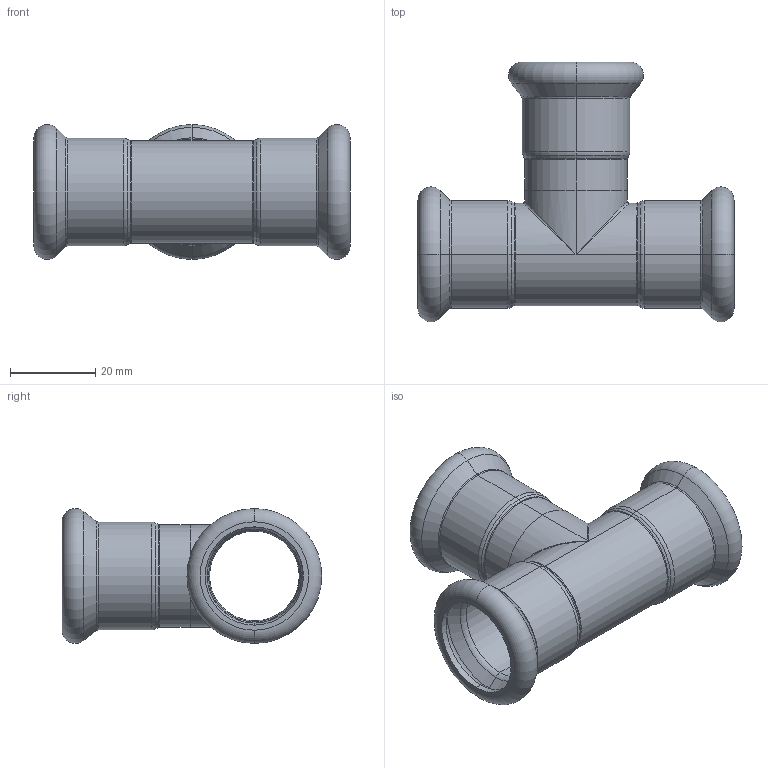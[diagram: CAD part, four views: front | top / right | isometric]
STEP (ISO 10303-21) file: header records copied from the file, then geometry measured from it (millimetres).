
FILE_DESCRIPTION (( 'STEP AP203' ), '1' );
FILE_NAME ('GDA5183.STEP', '2019-01-14T01:48:06', ( '' ), ( '' ), 'SwSTEP 2.0', 'SolidWorks 2015', '' );
FILE_SCHEMA (( 'CONFIG_CONTROL_DESIGN' ));
Length unit declared in the file: millimetre
Products named in the file (3): T-ｉ-01-22; GDA5183; T(R)-¢ñ-22¡Á22''
Assembly tree (2 placements, depth 2):
  GDA5183
    T(R)-¢ñ-22¡Á22''
    T-ｉ-01-22
Bounding box: 74 x 60.8 x 31.6 mm (x, y, z)
Volume: 13020.1 mm3; surface area: 17901.9 mm2
Topology: 2 solids, 2 shells, 115 faces, 235 edges, 120 vertices
Faces by surface type: torus 48, cylinder 32, cone 24, plane 8, bspline 3
Entity records: 3527 total; most frequent: CARTESIAN_POINT 769, DIRECTION 620, ORIENTED_EDGE 458, AXIS2_PLACEMENT_3D 281, EDGE_CURVE 229, CIRCLE 164, EDGE_LOOP 123, VERTEX_POINT 120
